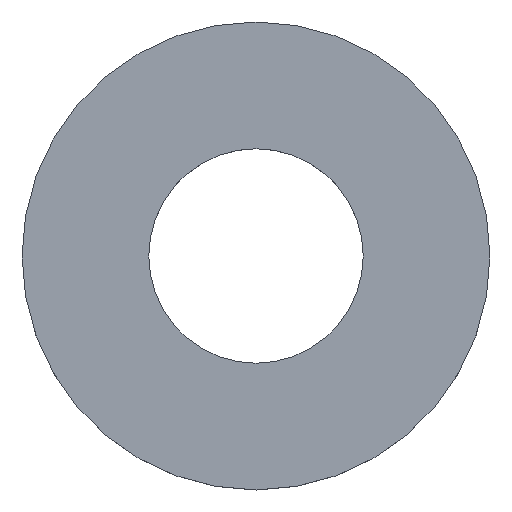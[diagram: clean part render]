
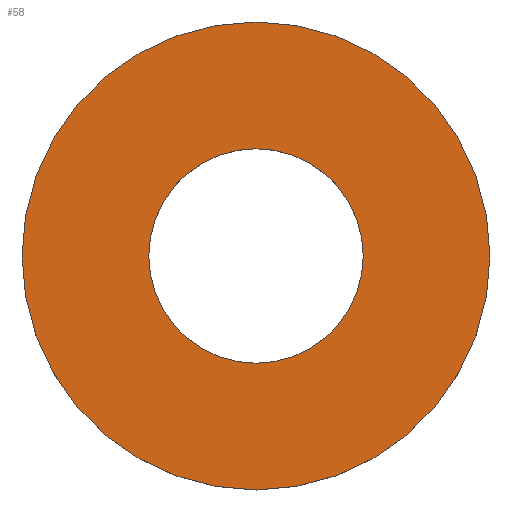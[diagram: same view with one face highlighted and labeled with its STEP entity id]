
A CAD part, top view. The second image highlights one B-rep face of the part: STEP entity #58.
In plain terms, the highlighted planar face has unit normal (0, 0, 1).
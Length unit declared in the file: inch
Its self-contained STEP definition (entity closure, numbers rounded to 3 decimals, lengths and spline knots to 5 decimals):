
#16=PLANE('',#68);
#20=FACE_BOUND('',#32,.T.);
#24=FACE_OUTER_BOUND('',#31,.T.);
#31=EDGE_LOOP('',(#51));
#32=EDGE_LOOP('',(#52));
#33=CIRCLE('',#62,0.6875);
#35=CIRCLE('',#65,1.5);
#37=VERTEX_POINT('',#89);
#39=VERTEX_POINT('',#94);
#41=EDGE_CURVE('',#37,#37,#33,.T.);
#43=EDGE_CURVE('',#39,#39,#35,.T.);
#51=ORIENTED_EDGE('',*,*,#43,.T.);
#52=ORIENTED_EDGE('',*,*,#41,.T.);
#58=ADVANCED_FACE('',(#24,#20),#16,.T.);
#62=AXIS2_PLACEMENT_3D('',#90,#73,#74);
#65=AXIS2_PLACEMENT_3D('',#95,#79,#80);
#68=AXIS2_PLACEMENT_3D('',#99,#85,#86);
#73=DIRECTION('center_axis',(0.,0.,-1.));
#74=DIRECTION('ref_axis',(-1.,0.,0.));
#79=DIRECTION('center_axis',(0.,0.,1.));
#80=DIRECTION('ref_axis',(-1.,0.,0.));
#85=DIRECTION('center_axis',(0.,0.,1.));
#86=DIRECTION('ref_axis',(1.,0.,0.));
#89=CARTESIAN_POINT('',(0.6875,0.,0.25));
#90=CARTESIAN_POINT('Origin',(0.,0.,0.25));
#94=CARTESIAN_POINT('',(1.5,0.,0.25));
#95=CARTESIAN_POINT('Origin',(0.,0.,0.25));
#99=CARTESIAN_POINT('Origin',(0.,0.,
0.25));
